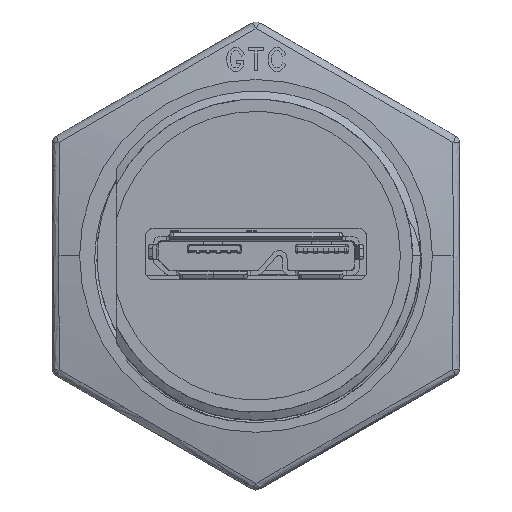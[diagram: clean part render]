
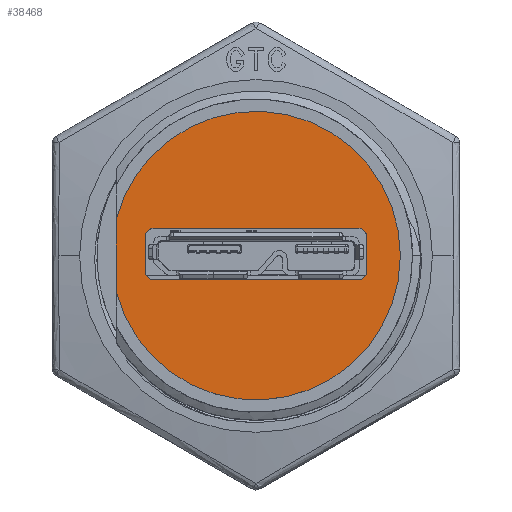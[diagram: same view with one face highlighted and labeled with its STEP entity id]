
A CAD part, top view. The second image highlights one B-rep face of the part: STEP entity #38468.
In plain terms, the highlighted planar face has unit normal (0, 0, 1).
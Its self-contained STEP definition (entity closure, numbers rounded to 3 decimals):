
#290 = CARTESIAN_POINT ( 'NONE',  ( 6.4, -1.5, 0. ) ) ;
#1151 = CARTESIAN_POINT ( 'NONE',  ( -6.9, 1.7, 0. ) ) ;
#3227 = DIRECTION ( 'NONE',  ( 0., 0., -1. ) ) ;
#3307 = DIRECTION ( 'NONE',  ( 0., 0., -1. ) ) ;
#4287 = AXIS2_PLACEMENT_3D ( 'NONE', #72375, #24188, #29971 ) ;
#4288 = CARTESIAN_POINT ( 'NONE',  ( -6.9, -1., 0. ) ) ;
#4905 = VECTOR ( 'NONE', #48946, 1000. ) ;
#6960 = VERTEX_POINT ( 'NONE', #27219 ) ;
#7834 = EDGE_CURVE ( 'NONE', #68873, #60621, #19588, .T. ) ;
#7878 = EDGE_CURVE ( 'NONE', #30829, #58441, #72853, .T. ) ;
#7966 = LINE ( 'NONE', #36489, #39286 ) ;
#8079 = LINE ( 'NONE', #60510, #59495 ) ;
#8480 = VERTEX_POINT ( 'NONE', #20875 ) ;
#11901 = EDGE_CURVE ( 'NONE', #30829, #8480, #51805, .T. ) ;
#12049 = EDGE_CURVE ( 'NONE', #60142, #65670, #59205, .T. ) ;
#14090 = ORIENTED_EDGE ( 'NONE', *, *, #7878, .F. ) ;
#15240 = DIRECTION ( 'NONE',  ( -1., 0., 0. ) ) ;
#16028 = EDGE_CURVE ( 'NONE', #6960, #46026, #43703, .T. ) ;
#16174 = ORIENTED_EDGE ( 'NONE', *, *, #22451, .T. ) ;
#16590 = FACE_BOUND ( 'NONE', #42305, .T. ) ;
#16618 = VECTOR ( 'NONE', #60885, 1000. ) ;
#17439 = CARTESIAN_POINT ( 'NONE',  ( -6.4, 1.7, 0. ) ) ;
#18545 = CARTESIAN_POINT ( 'NONE',  ( -8.7, 11.972, 0. ) ) ;
#19588 = CIRCLE ( 'NONE', #29436, 9. ) ;
#20875 = CARTESIAN_POINT ( 'NONE',  ( 6.9, 1.2, 0. ) ) ;
#22451 = EDGE_CURVE ( 'NONE', #25827, #58441, #51881, .T. ) ;
#22547 = CARTESIAN_POINT ( 'NONE',  ( -6.4, 1.2, 0. ) ) ;
#24188 = DIRECTION ( 'NONE',  ( 0., 0., -1. ) ) ;
#25041 = DIRECTION ( 'NONE',  ( 1., 0., 0. ) ) ;
#25526 = CARTESIAN_POINT ( 'NONE',  ( -6.4, -1.5, 0. ) ) ;
#25827 = VERTEX_POINT ( 'NONE', #57051 ) ;
#26189 = DIRECTION ( 'NONE',  ( 0., 0., 1. ) ) ;
#26359 = EDGE_CURVE ( 'NONE', #60621, #70759, #49579, .T. ) ;
#26498 = EDGE_LOOP ( 'NONE', ( #53350, #62858, #47796 ) ) ;
#27219 = CARTESIAN_POINT ( 'NONE',  ( 6.9, -1., 0. ) ) ;
#28642 = AXIS2_PLACEMENT_3D ( 'NONE', #39604, #57354, #75084 ) ;
#29436 = AXIS2_PLACEMENT_3D ( 'NONE', #36598, #26189, #25041 ) ;
#29971 = DIRECTION ( 'NONE',  ( -1., 0., 0. ) ) ;
#30829 = VERTEX_POINT ( 'NONE', #75101 ) ;
#32499 = CARTESIAN_POINT ( 'NONE',  ( 6.4, 1.2, 0. ) ) ;
#33814 = AXIS2_PLACEMENT_3D ( 'NONE', #39329, #57837, #45899 ) ;
#35844 = CARTESIAN_POINT ( 'NONE',  ( -6.9, 1.7, 0. ) ) ;
#36489 = CARTESIAN_POINT ( 'NONE',  ( -6.9, -1.5, 0. ) ) ;
#36598 = CARTESIAN_POINT ( 'NONE',  ( 0., 0., 0. ) ) ;
#37801 = LINE ( 'NONE', #18545, #44706 ) ;
#38468 = ADVANCED_FACE ( 'NONE', ( #16590, #69035 ), #75570, .F. ) ;
#38529 = CARTESIAN_POINT ( 'NONE',  ( -8.7, 2.304, 0. ) ) ;
#39166 = CARTESIAN_POINT ( 'NONE',  ( -8.7, -2.304, 0. ) ) ;
#39286 = VECTOR ( 'NONE', #65802, 1000. ) ;
#39329 = CARTESIAN_POINT ( 'NONE',  ( 0., 0., 0. ) ) ;
#39604 = CARTESIAN_POINT ( 'NONE',  ( 0., 0., 0. ) ) ;
#42305 = EDGE_LOOP ( 'NONE', ( #63259, #65574, #54789, #16174, #14090, #51826, #62812, #73251 ) ) ;
#43703 = CIRCLE ( 'NONE', #4287, 0.5 ) ;
#44405 = AXIS2_PLACEMENT_3D ( 'NONE', #61504, #3307, #15240 ) ;
#44706 = VECTOR ( 'NONE', #65586, 1000. ) ;
#45899 = DIRECTION ( 'NONE',  ( -1., 0., 0. ) ) ;
#46026 = VERTEX_POINT ( 'NONE', #290 ) ;
#46958 = AXIS2_PLACEMENT_3D ( 'NONE', #22547, #63034, #51500 ) ;
#47796 = ORIENTED_EDGE ( 'NONE', *, *, #73775, .F. ) ;
#48946 = DIRECTION ( 'NONE',  ( 0., -1., 0. ) ) ;
#49579 = CIRCLE ( 'NONE', #28642, 9. ) ;
#50349 = CARTESIAN_POINT ( 'NONE',  ( 9., 0., 0. ) ) ;
#50659 = EDGE_CURVE ( 'NONE', #6960, #8480, #8079, .T. ) ;
#51500 = DIRECTION ( 'NONE',  ( -1., 0., 0. ) ) ;
#51805 = CIRCLE ( 'NONE', #70272, 0.5 ) ;
#51826 = ORIENTED_EDGE ( 'NONE', *, *, #11901, .T. ) ;
#51881 = CIRCLE ( 'NONE', #46958, 0.5 ) ;
#53350 = ORIENTED_EDGE ( 'NONE', *, *, #7834, .T. ) ;
#54789 = ORIENTED_EDGE ( 'NONE', *, *, #65825, .F. ) ;
#57051 = CARTESIAN_POINT ( 'NONE',  ( -6.9, 1.2, 0. ) ) ;
#57354 = DIRECTION ( 'NONE',  ( 0., 0., 1. ) ) ;
#57837 = DIRECTION ( 'NONE',  ( 0., 0., -1. ) ) ;
#58441 = VERTEX_POINT ( 'NONE', #17439 ) ;
#59205 = CIRCLE ( 'NONE', #44405, 0.5 ) ;
#59495 = VECTOR ( 'NONE', #73242, 1000. ) ;
#60142 = VERTEX_POINT ( 'NONE', #25526 ) ;
#60510 = CARTESIAN_POINT ( 'NONE',  ( 6.9, 1.7, 0. ) ) ;
#60621 = VERTEX_POINT ( 'NONE', #50349 ) ;
#60885 = DIRECTION ( 'NONE',  ( -1., 0., 0. ) ) ;
#61504 = CARTESIAN_POINT ( 'NONE',  ( -6.4, -1., 0. ) ) ;
#62812 = ORIENTED_EDGE ( 'NONE', *, *, #50659, .F. ) ;
#62858 = ORIENTED_EDGE ( 'NONE', *, *, #26359, .T. ) ;
#63034 = DIRECTION ( 'NONE',  ( 0., 0., -1. ) ) ;
#63259 = ORIENTED_EDGE ( 'NONE', *, *, #69444, .F. ) ;
#65574 = ORIENTED_EDGE ( 'NONE', *, *, #12049, .T. ) ;
#65586 = DIRECTION ( 'NONE',  ( 0., 1., 0. ) ) ;
#65670 = VERTEX_POINT ( 'NONE', #4288 ) ;
#65802 = DIRECTION ( 'NONE',  ( 1., 0., 0. ) ) ;
#65825 = EDGE_CURVE ( 'NONE', #25827, #65670, #65919, .T. ) ;
#65919 = LINE ( 'NONE', #35844, #4905 ) ;
#68873 = VERTEX_POINT ( 'NONE', #39166 ) ;
#69035 = FACE_OUTER_BOUND ( 'NONE', #26498, .T. ) ;
#69444 = EDGE_CURVE ( 'NONE', #60142, #46026, #7966, .T. ) ;
#70272 = AXIS2_PLACEMENT_3D ( 'NONE', #32499, #3227, #73402 ) ;
#70759 = VERTEX_POINT ( 'NONE', #38529 ) ;
#72375 = CARTESIAN_POINT ( 'NONE',  ( 6.4, -1., 0. ) ) ;
#72853 = LINE ( 'NONE', #1151, #16618 ) ;
#73242 = DIRECTION ( 'NONE',  ( 0., 1., 0. ) ) ;
#73251 = ORIENTED_EDGE ( 'NONE', *, *, #16028, .T. ) ;
#73402 = DIRECTION ( 'NONE',  ( -1., 0., 0. ) ) ;
#73775 = EDGE_CURVE ( 'NONE', #68873, #70759, #37801, .T. ) ;
#75084 = DIRECTION ( 'NONE',  ( 1., 0., 0. ) ) ;
#75101 = CARTESIAN_POINT ( 'NONE',  ( 6.4, 1.7, 0. ) ) ;
#75570 = PLANE ( 'NONE',  #33814 ) ;
